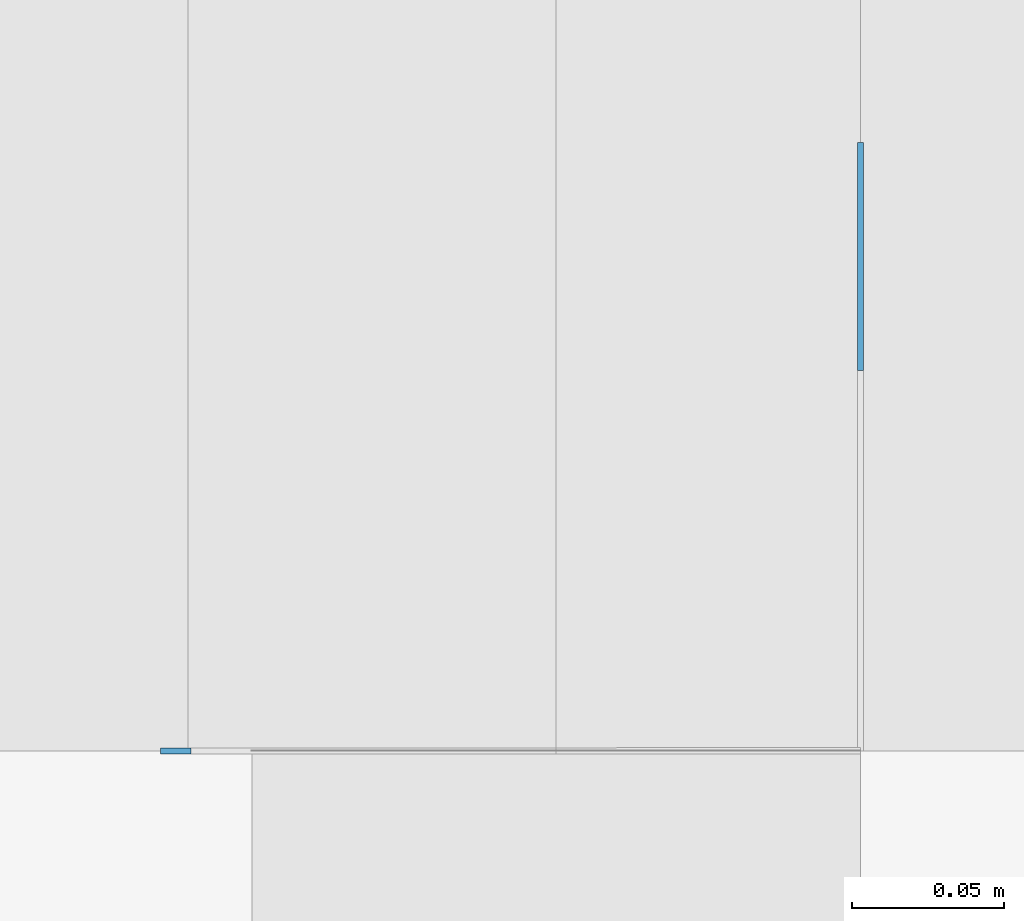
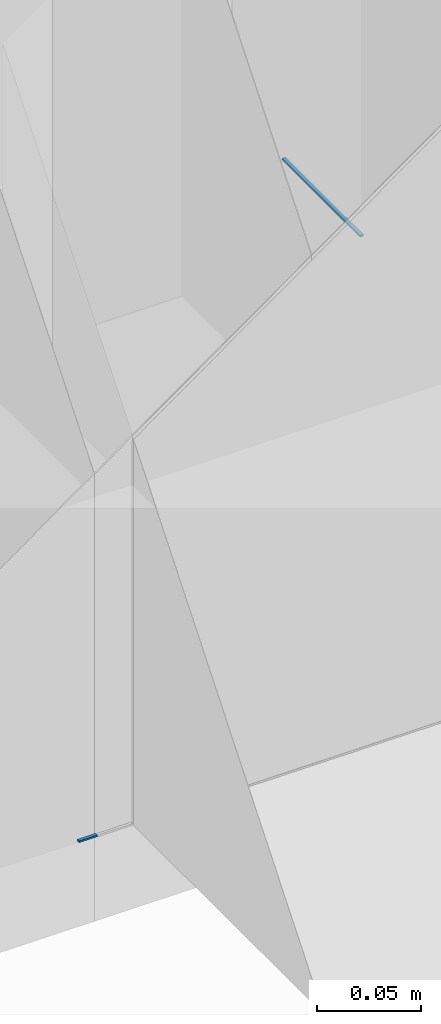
# One storey, part 11 of 17: 2 beams.
"""IFC2X3 building model written with IfcOpenShell, lengths in metres."""

import ifcopenshell
import ifcopenshell.guid

model = None  # the IFC model being written
_history = None  # IfcOwnerHistory: only IFC2X3 demands one
_inside = {}  # id of a spatial element -> (the spatial element, [elements in it])
_under = {}  # id of a project, library or spatial element -> (it, [spatial elements below it])
_declared = {}  # id of a project -> (the project, [libraries it declares])
_typed = {}  # id of a type object -> (the type object, [elements of that type])
_made_of = {}  # id of a material, layer set ... -> (it, [elements and type objects made of it])


def new_model(schema):
    """Start an empty IFC model of exactly this schema.

    Asked for "IFC4X3", IfcOpenShell would pick the latest addendum, in which some entities
    have other attributes; the version numbers below select the first issue.
    IFC2X3 requires an IfcOwnerHistory on every rooted entity: one is made here for all.
    """
    global model, _history
    if schema == "IFC4X3":
        model = ifcopenshell.file(schema_version=(4, 3, 0, 0))
    else:
        model = ifcopenshell.file(schema=schema)
    _inside.clear()
    _under.clear()
    _declared.clear()
    _typed.clear()
    _made_of.clear()
    _history = None
    if model.schema == "IFC2X3":
        org = make("IfcOrganization", Name="unknown")
        user = make(
            "IfcPersonAndOrganization",
            ThePerson=make("IfcPerson", FamilyName="unknown"),
            TheOrganization=org,
        )
        app = make(
            "IfcApplication",
            ApplicationDeveloper=org,
            Version="unknown",
            ApplicationFullName="unknown",
            ApplicationIdentifier="unknown",
        )
        _history = make(
            "IfcOwnerHistory",
            OwningUser=user,
            OwningApplication=app,
            ChangeAction="ADDED",
            CreationDate=0,
        )
    return model


def make(cls, **values):
    """One entity of the class cls with the attributes given. An attribute that is None is left unset."""
    return model.create_entity(
        cls, **{name: value for name, value in values.items() if value is not None}
    )


def rooted(cls, **values):
    """An entity with a GlobalId (a new one), such as an element, a storey or a relation."""
    return make(cls, GlobalId=ifcopenshell.guid.new(), OwnerHistory=_history, **values)


def si_unit(unit_type, name, prefix=None):
    """IfcSIUnit, for example si_unit("LENGTHUNIT", "METRE", prefix="MILLI")."""
    return make("IfcSIUnit", UnitType=unit_type, Prefix=prefix, Name=name)


def assignment(units):
    """IfcUnitAssignment: the units of a project."""
    return None if units is None else make("IfcUnitAssignment", Units=units)


def point(xyz):
    """IfcCartesianPoint."""
    return None if xyz is None else make("IfcCartesianPoint", Coordinates=xyz)


def direction(xyz):
    """IfcDirection."""
    return None if xyz is None else make("IfcDirection", DirectionRatios=xyz)


def frame(location, z_axis=None, x_axis=None):
    """IfcAxis2Placement3D, a coordinate frame: its origin and axes. An axis left out is left unset."""
    return make(
        "IfcAxis2Placement3D",
        Location=point(location),
        Axis=direction(z_axis),
        RefDirection=direction(x_axis),
    )


def origin_with_axes():
    """The frame at (0, 0, 0) with the z axis (0, 0, 1) and the x axis (1, 0, 0) written out."""
    return frame((0.0, 0.0, 0.0), z_axis=(0.0, 0.0, 1.0), x_axis=(1.0, 0.0, 0.0))


def place(relative_to, where):
    """IfcLocalPlacement: puts the frame where relative to a parent placement (None: the world)."""
    return make(
        "IfcLocalPlacement", PlacementRelTo=relative_to, RelativePlacement=where
    )


def context(
    kind, dimensions, precision=None, world=None, true_north=None, identifier=None
):
    """IfcGeometricRepresentationContext, for example the 3D "Model" context."""
    return make(
        "IfcGeometricRepresentationContext",
        ContextIdentifier=identifier,
        ContextType=kind,
        CoordinateSpaceDimension=dimensions,
        Precision=precision,
        WorldCoordinateSystem=world,
        TrueNorth=true_north,
    )


def subcontext(parent, identifier, kind, view, scale=None):
    """IfcGeometricRepresentationSubContext, for example "Body" below "Model"."""
    return make(
        "IfcGeometricRepresentationSubContext",
        ContextIdentifier=identifier,
        ContextType=kind,
        ParentContext=parent,
        TargetScale=scale,
        TargetView=view,
    )


def project(units=None, contexts=None):
    """IfcProject with its units and contexts."""
    return rooted(
        "IfcProject",
        Name="project",
        RepresentationContexts=contexts,
        UnitsInContext=assignment(units),
    )


def spatial(cls, under=None, at=None, **own):
    """A site, building, storey or space (cls), placed at a placement, below another one or the project."""
    s = rooted(cls, ObjectPlacement=at, **own)
    if under is not None:
        _under.setdefault(under.id(), (under, []))[1].append(s)
    return s


def polyline(points):
    """IfcPolyline through the points."""
    return make("IfcPolyline", Points=[point(p) for p in points])


def outline(outer, holes=None, kind="AREA"):
    """IfcArbitraryClosedProfileDef: a profile drawn as a closed curve; with holes, ...WithVoids."""
    if holes is None:
        return make("IfcArbitraryClosedProfileDef", ProfileType=kind, OuterCurve=outer)
    return make(
        "IfcArbitraryProfileDefWithVoids",
        ProfileType=kind,
        OuterCurve=outer,
        InnerCurves=holes,
    )


def extrude(swept, where, along, depth):
    """IfcExtrudedAreaSolid: the profile swept, set in the frame where, extruded along a direction by depth."""
    return make(
        "IfcExtrudedAreaSolid",
        SweptArea=swept,
        Position=where,
        ExtrudedDirection=direction(along),
        Depth=depth,
    )


def shape(context_of_items, identifier, shape_type, items):
    """IfcShapeRepresentation: the items that make up one representation, for example the "Body"."""
    return make(
        "IfcShapeRepresentation",
        ContextOfItems=context_of_items,
        RepresentationIdentifier=identifier,
        RepresentationType=shape_type,
        Items=items,
    )


def material(Name=None, Category=None):
    """IfcMaterial."""
    return make("IfcMaterial", Name=Name, Category=Category)


def made_of(thing, what):
    """Note that an element or type object is made of a material, layer set ...; save() writes the relation."""
    if what is not None:
        _made_of.setdefault(what.id(), (what, []))[1].append(thing)
    return thing


def type_object(cls, material=None, **own):
    """A type object (cls), such as IfcWallType, which elements share."""
    return made_of(rooted(cls, **own), material)


def element(
    cls,
    number,
    at=None,
    inside=None,
    cuts=None,
    type_object=None,
    material=None,
    context=None,
    identifier="Body",
    shape_type=None,
    held_by="IfcProductDefinitionShape",
    body=None,
    shapes=None,
    **own,
):
    """One element of the class cls, such as IfcWall. Its Tag is "e" and its number.

    at: its placement. inside: the storey or other place that contains it. cuts: it is an
    opening in that element (IfcRelVoidsElement). A single representation is given by context,
    identifier, shape_type and body (its items); several are given by shapes. held_by: the class
    of the entity that holds the representations. save() writes the other relations.
    """
    e = rooted(cls, Tag="e%d" % number, ObjectPlacement=at, **own)
    if body is not None:
        shapes = [shape(context, identifier, shape_type, body)]
    if shapes is not None:
        e.Representation = make(held_by, Representations=shapes)
    if inside is not None:
        _inside.setdefault(inside.id(), (inside, []))[1].append(e)
    if cuts is not None:
        rooted(
            "IfcRelVoidsElement", RelatingBuildingElement=cuts, RelatedOpeningElement=e
        )
    if type_object is not None:
        _typed.setdefault(type_object.id(), (type_object, []))[1].append(e)
    return made_of(e, material)


def aggregate(whole, parts):
    """IfcRelAggregates: a whole, such as a stair, and the parts it consists of."""
    return rooted("IfcRelAggregates", RelatingObject=whole, RelatedObjects=parts)


def save(model, path):
    """Write the relations noted so far, then the file.

    IfcRelAggregates (storeys below a building ...), IfcRelContainedInSpatialStructure (elements
    in a storey), IfcRelDefinesByType, IfcRelAssociatesMaterial and IfcRelDeclares: one each for
    every whole, place, type object, material and project.
    """
    for whole, parts in _under.values():
        aggregate(whole, parts)
    for where, things in _inside.values():
        rooted(
            "IfcRelContainedInSpatialStructure",
            RelatedElements=things,
            RelatingStructure=where,
        )
    for kind, things in _typed.values():
        rooted("IfcRelDefinesByType", RelatedObjects=things, RelatingType=kind)
    for what, things in _made_of.values():
        rooted("IfcRelAssociatesMaterial", RelatedObjects=things, RelatingMaterial=what)
    for by, libraries in _declared.values():
        rooted("IfcRelDeclares", RelatingContext=by, RelatedDefinitions=libraries)
    model.write(path)


model = new_model("IFC2X3")

# Units and contexts
model_context = context("Model", 3, precision=0.0001, world=origin_with_axes(), true_north=direction((0.0, 1.0)))
plan_context = context("Plan", 2, precision=0.0001, world=origin_with_axes(), true_north=direction((0.0, 1.0)))
body_context = subcontext(model_context, "Body", "Model", "MODEL_VIEW")
ifc_project = project(units=[si_unit("LENGTHUNIT", "METRE"), si_unit("AREAUNIT", "SQUARE_METRE"), si_unit("MASSUNIT", "GRAM", prefix="KILO"), si_unit("VOLUMEUNIT", "CUBIC_METRE")], contexts=[plan_context, model_context])

# Site, building, storey
site_placement = place(None, origin_with_axes())
site = spatial("IfcSite", under=ifc_project, at=site_placement, Name="$", CompositionType="ELEMENT")
building_placement = place(site_placement, origin_with_axes())
building = spatial("IfcBuilding", under=site, at=building_placement, Name="Classeur ENS Ensemble", CompositionType="ELEMENT")
storey_placement = place(building_placement, frame((-20.30778888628, -1.812671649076, 0.0), z_axis=(0.0, 0.0, 1.0), x_axis=(1.0, 0.0, 0.0)))
storey = spatial("IfcBuildingStorey", under=building, at=storey_placement, Name="001 RdC", CompositionType="ELEMENT", Elevation=0.0)

# Beams
ifc_material = material(Name="Default material")
beam_type = type_object("IfcBeamType", PredefinedType="BEAM")
beam_1_placement = place(storey_placement, frame((21.2532953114, -2.722328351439, 3.049999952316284), z_axis=(0.0, 0.0, 1.0), x_axis=(0.0, 1.0, 0.0)))
element("IfcBeam", 1, at=beam_1_placement, inside=storey, type_object=beam_type, material=ifc_material, Name="poutre fictive", context=body_context, shape_type="SweptSolid", held_by="IfcProductRepresentation", body=[
    extrude(outline(polyline([(0.0, 0.001000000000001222), (0.0, 0.001000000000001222), (0.0, 0.001000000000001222), (0.07500000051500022, 0.001000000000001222), (0.07500000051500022, 0.001000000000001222), (0.07500000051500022, 0.001000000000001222), (0.07500000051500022, -0.0009999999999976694), (0.07500000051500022, -0.0009999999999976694), (0.07500000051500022, -0.0009999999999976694), (0.0, -0.0009999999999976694), (0.0, -0.0009999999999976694), (0.0, -0.0009999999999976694), (0.0, 0.001000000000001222)])), origin_with_axes(), (0.0, 0.0, 1.0), 0.001),
])
beam_2_placement = place(storey_placement, frame((21.02329536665, -2.847333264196, 2.849999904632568), z_axis=(0.0, 0.0, 1.0), x_axis=(0.9999999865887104, 0.0001637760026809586, 0.0)))
element("IfcBeam", 2, at=beam_2_placement, inside=storey, type_object=beam_type, material=ifc_material, Name="poutre fictive 285", context=body_context, shape_type="SweptSolid", held_by="IfcProductRepresentation", body=[
    extrude(outline(polyline([(-1.632924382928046e-15, 0.0009999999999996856), (-1.632924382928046e-15, 0.0009999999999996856), (-1.632924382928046e-15, 0.0009999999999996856), (0.009999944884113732, 0.000999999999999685), (0.009999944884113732, 0.000999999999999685), (0.009999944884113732, 0.000999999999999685), (0.009999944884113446, -0.00100000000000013), (0.009999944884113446, -0.00100000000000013), (0.009999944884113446, -0.00100000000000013), (1.632924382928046e-15, -0.0009999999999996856), (1.632924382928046e-15, -0.0009999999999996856), (1.632924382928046e-15, -0.0009999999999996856), (-1.632924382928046e-15, 0.0009999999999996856)])), origin_with_axes(), (0.0, 0.0, 1.0), 0.001),
])

save(model, "model.ifc")
